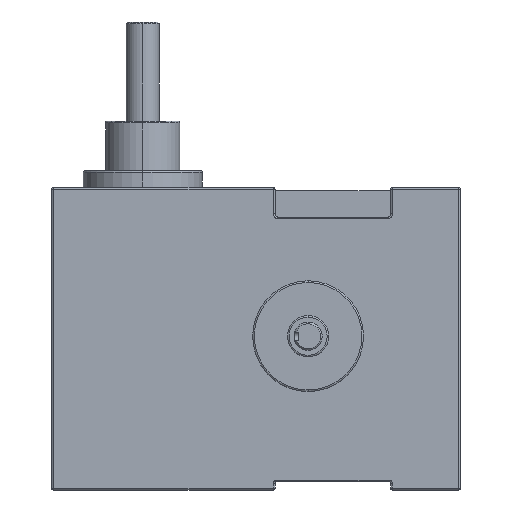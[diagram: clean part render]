
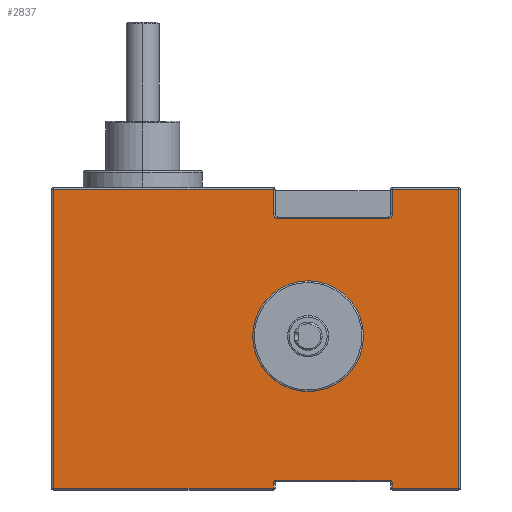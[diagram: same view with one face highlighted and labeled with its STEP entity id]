
A CAD part, left-side view. The second image highlights one B-rep face of the part: STEP entity #2837.
In plain terms, the highlighted planar face has unit normal (-1, 0, 0).
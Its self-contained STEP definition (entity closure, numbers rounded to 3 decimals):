
#344=CARTESIAN_POINT('',(-60.,24.634,-90.));
#345=DIRECTION('',(-1.,0.,0.));
#346=DIRECTION('',(0.,0.,1.));
#347=AXIS2_PLACEMENT_3D('',#344,#345,#346);
#349=CARTESIAN_POINT('',(-60.,24.634,-90.));
#350=DIRECTION('',(-1.,0.,0.));
#351=DIRECTION('',(0.,0.,-1.));
#352=AXIS2_PLACEMENT_3D('',#349,#350,#351);
#354=DIRECTION('',(0.,-1.,0.));
#355=VECTOR('',#354,40.);
#356=CARTESIAN_POINT('',(-60.,-26.366,-1.));
#357=LINE('',#356,#355);
#358=DIRECTION('',(0.,0.,-1.));
#359=VECTOR('',#358,181.);
#360=CARTESIAN_POINT('',(-60.,-66.366,-1.));
#361=LINE('',#360,#359);
#362=DIRECTION('',(0.,1.,0.));
#363=VECTOR('',#362,40.);
#364=CARTESIAN_POINT('',(-60.,-66.366,-182.));
#365=LINE('',#364,#363);
#366=DIRECTION('',(0.,0.,-1.));
#367=VECTOR('',#366,3.);
#368=CARTESIAN_POINT('',(-60.,-26.366,-179.));
#369=LINE('',#368,#367);
#370=CARTESIAN_POINT('',(-60.,-24.366,-179.));
#371=DIRECTION('',(1.,0.,0.));
#372=DIRECTION('',(0.,0.,1.));
#373=AXIS2_PLACEMENT_3D('',#370,#371,#372);
#375=DIRECTION('',(0.,-1.,0.));
#376=VECTOR('',#375,68.);
#377=CARTESIAN_POINT('',(-60.,43.634,-177.));
#378=LINE('',#377,#376);
#379=CARTESIAN_POINT('',(-60.,43.634,-179.));
#380=DIRECTION('',(1.,0.,0.));
#381=DIRECTION('',(0.,1.,0.));
#382=AXIS2_PLACEMENT_3D('',#379,#380,#381);
#384=DIRECTION('',(0.,0.,1.));
#385=VECTOR('',#384,3.);
#386=CARTESIAN_POINT('',(-60.,45.634,-182.));
#387=LINE('',#386,#385);
#388=DIRECTION('',(0.,1.,0.));
#389=VECTOR('',#388,133.);
#390=CARTESIAN_POINT('',(-60.,45.634,-182.));
#391=LINE('',#390,#389);
#392=DIRECTION('',(0.,0.,-1.));
#393=VECTOR('',#392,181.);
#394=CARTESIAN_POINT('',(-60.,178.634,-1.));
#395=LINE('',#394,#393);
#396=DIRECTION('',(0.,-1.,0.));
#397=VECTOR('',#396,133.);
#398=CARTESIAN_POINT('',(-60.,178.634,-1.));
#399=LINE('',#398,#397);
#400=DIRECTION('',(0.,0.,-1.));
#401=VECTOR('',#400,15.);
#402=CARTESIAN_POINT('',(-60.,45.634,-1.));
#403=LINE('',#402,#401);
#404=CARTESIAN_POINT('',(-60.,42.634,-16.));
#405=DIRECTION('',(-1.,0.,0.));
#406=DIRECTION('',(0.,1.,0.));
#407=AXIS2_PLACEMENT_3D('',#404,#405,#406);
#409=DIRECTION('',(0.,-1.,0.));
#410=VECTOR('',#409,66.);
#411=CARTESIAN_POINT('',(-60.,42.634,-19.));
#412=LINE('',#411,#410);
#413=CARTESIAN_POINT('',(-60.,-23.366,-16.));
#414=DIRECTION('',(-1.,0.,0.));
#415=DIRECTION('',(0.,0.,-1.));
#416=AXIS2_PLACEMENT_3D('',#413,#414,#415);
#418=DIRECTION('',(0.,0.,1.));
#419=VECTOR('',#418,15.);
#420=CARTESIAN_POINT('',(-60.,-26.366,-16.));
#421=LINE('',#420,#419);
#1838=CARTESIAN_POINT('',(-60.,24.634,-56.5));
#1839=CARTESIAN_POINT('',(-60.,24.634,-123.5));
#1840=VERTEX_POINT('',#1838);
#1841=VERTEX_POINT('',#1839);
#2010=CARTESIAN_POINT('',(-60.,-26.366,-1.));
#2011=CARTESIAN_POINT('',(-60.,-66.366,-1.));
#2012=VERTEX_POINT('',#2010);
#2013=VERTEX_POINT('',#2011);
#2018=CARTESIAN_POINT('',(-60.,-66.366,-182.));
#2019=VERTEX_POINT('',#2018);
#2048=CARTESIAN_POINT('',(-60.,-26.366,-182.));
#2049=VERTEX_POINT('',#2048);
#2054=CARTESIAN_POINT('',(-60.,-26.366,-179.));
#2055=VERTEX_POINT('',#2054);
#2056=CARTESIAN_POINT('',(-60.,-24.366,
-177.));
#2057=VERTEX_POINT('',#2056);
#2060=CARTESIAN_POINT('',(-60.,43.634,-177.));
#2061=VERTEX_POINT('',#2060);
#2064=CARTESIAN_POINT('',(-60.,45.634,-179.));
#2065=VERTEX_POINT('',#2064);
#2068=CARTESIAN_POINT('',(-60.,45.634,-182.));
#2069=VERTEX_POINT('',#2068);
#2094=CARTESIAN_POINT('',(-60.,178.634,-182.));
#2095=VERTEX_POINT('',#2094);
#2098=CARTESIAN_POINT('',(-60.,178.634,-1.));
#2099=CARTESIAN_POINT('',(-60.,45.634,-1.));
#2100=VERTEX_POINT('',#2098);
#2101=VERTEX_POINT('',#2099);
#2142=CARTESIAN_POINT('',(-60.,-26.366,-16.));
#2143=VERTEX_POINT('',#2142);
#2150=CARTESIAN_POINT('',(-60.,-23.366,
-19.));
#2151=VERTEX_POINT('',#2150);
#2154=CARTESIAN_POINT('',(-60.,42.634,-19.));
#2155=VERTEX_POINT('',#2154);
#2158=CARTESIAN_POINT('',(-60.,45.634,-16.));
#2159=VERTEX_POINT('',#2158);
#2793=CARTESIAN_POINT('',(-60.,179.634,0.));
#2794=DIRECTION('',(-1.,0.,0.));
#2795=DIRECTION('',(0.,-1.,0.));
#2796=AXIS2_PLACEMENT_3D('',#2793,#2794,#2795);
#2797=PLANE('',#2796);
#2798=ORIENTED_EDGE('',*,*,#2783,.T.);
#2800=ORIENTED_EDGE('',*,*,#2799,.T.);
#2802=ORIENTED_EDGE('',*,*,#2801,.T.);
#2804=ORIENTED_EDGE('',*,*,#2803,.F.);
#2806=ORIENTED_EDGE('',*,*,#2805,.F.);
#2808=ORIENTED_EDGE('',*,*,#2807,.F.);
#2810=ORIENTED_EDGE('',*,*,#2809,.F.);
#2812=ORIENTED_EDGE('',*,*,#2811,.F.);
#2814=ORIENTED_EDGE('',*,*,#2813,.T.);
#2816=ORIENTED_EDGE('',*,*,#2815,.F.);
#2818=ORIENTED_EDGE('',*,*,#2817,.T.);
#2820=ORIENTED_EDGE('',*,*,#2819,.T.);
#2822=ORIENTED_EDGE('',*,*,#2821,.T.);
#2824=ORIENTED_EDGE('',*,*,#2823,.T.);
#2826=ORIENTED_EDGE('',*,*,#2825,.T.);
#2828=ORIENTED_EDGE('',*,*,#2827,.T.);
#2829=EDGE_LOOP('',(#2798,#2800,#2802,#2804,#2806,#2808,#2810,#2812,#2814,#2816,
#2818,#2820,#2822,#2824,#2826,#2828));
#2830=FACE_OUTER_BOUND('',#2829,.F.);
#2832=ORIENTED_EDGE('',*,*,#2831,.T.);
#2834=ORIENTED_EDGE('',*,*,#2833,.T.);
#2835=EDGE_LOOP('',(#2832,#2834));
#2836=FACE_BOUND('',#2835,.F.);
#348=CIRCLE('',#347,33.5);
#353=CIRCLE('',#352,33.5);
#374=CIRCLE('',#373,2.);
#383=CIRCLE('',#382,2.);
#408=CIRCLE('',#407,3.);
#417=CIRCLE('',#416,3.);
#2783=EDGE_CURVE('',#2012,#2013,#357,.T.);
#2799=EDGE_CURVE('',#2013,#2019,#361,.T.);
#2801=EDGE_CURVE('',#2019,#2049,#365,.T.);
#2803=EDGE_CURVE('',#2055,#2049,#369,.T.);
#2805=EDGE_CURVE('',#2057,#2055,#374,.T.);
#2807=EDGE_CURVE('',#2061,#2057,#378,.T.);
#2809=EDGE_CURVE('',#2065,#2061,#383,.T.);
#2811=EDGE_CURVE('',#2069,#2065,#387,.T.);
#2813=EDGE_CURVE('',#2069,#2095,#391,.T.);
#2815=EDGE_CURVE('',#2100,#2095,#395,.T.);
#2817=EDGE_CURVE('',#2100,#2101,#399,.T.);
#2819=EDGE_CURVE('',#2101,#2159,#403,.T.);
#2821=EDGE_CURVE('',#2159,#2155,#408,.T.);
#2823=EDGE_CURVE('',#2155,#2151,#412,.T.);
#2825=EDGE_CURVE('',#2151,#2143,#417,.T.);
#2827=EDGE_CURVE('',#2143,#2012,#421,.T.);
#2831=EDGE_CURVE('',#1840,#1841,#348,.T.);
#2833=EDGE_CURVE('',#1841,#1840,#353,.T.);
#2837=ADVANCED_FACE('',(#2830,#2836),#2797,.T.);
